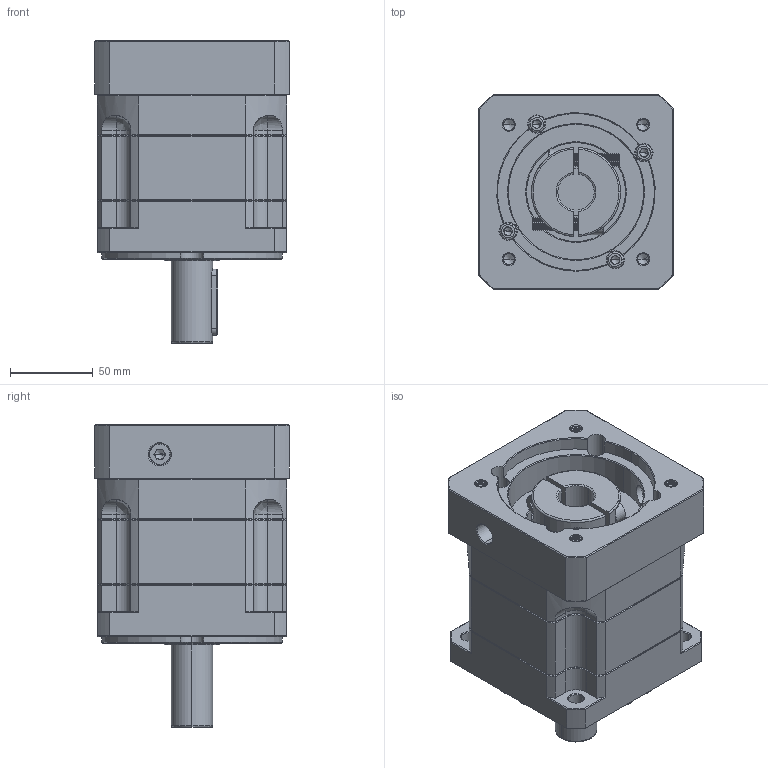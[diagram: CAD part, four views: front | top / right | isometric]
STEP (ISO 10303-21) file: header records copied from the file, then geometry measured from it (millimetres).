
FILE_DESCRIPTION (( 'STEP AP214' ), '1' );
FILE_NAME ('ZB115A-D25-L1-22-95-115-M8.step', '2023-03-02T08:56:17', ( '' ), ( 'Microsoft' ), 'SwSTEP 2.0', 'SolidWorks 2016', '' );
FILE_SCHEMA (( 'AUTOMOTIVE_DESIGN' ));
Length unit declared in the file: millimetre
Products named in the file (1): ZB115A-D25-L1-22-95-115-M8
Bounding box: 118 x 118 x 183.5 mm (x, y, z)
Volume: 1462690.8 mm3; surface area: 162444.4 mm2
Topology: 6 solids, 6 shells, 2128 faces, 5506 edges, 3469 vertices
Faces by surface type: plane 964, cylinder 448, cone 371, bspline 325, torus 20
Entity records: 113731 total; most frequent: CARTESIAN_POINT 41315, ORIENTED_EDGE 10944, DIRECTION 8985, EDGE_CURVE 5472, VERTEX_POINT 3469, LINE 3377, VECTOR 3377, AXIS2_PLACEMENT_3D 2804
